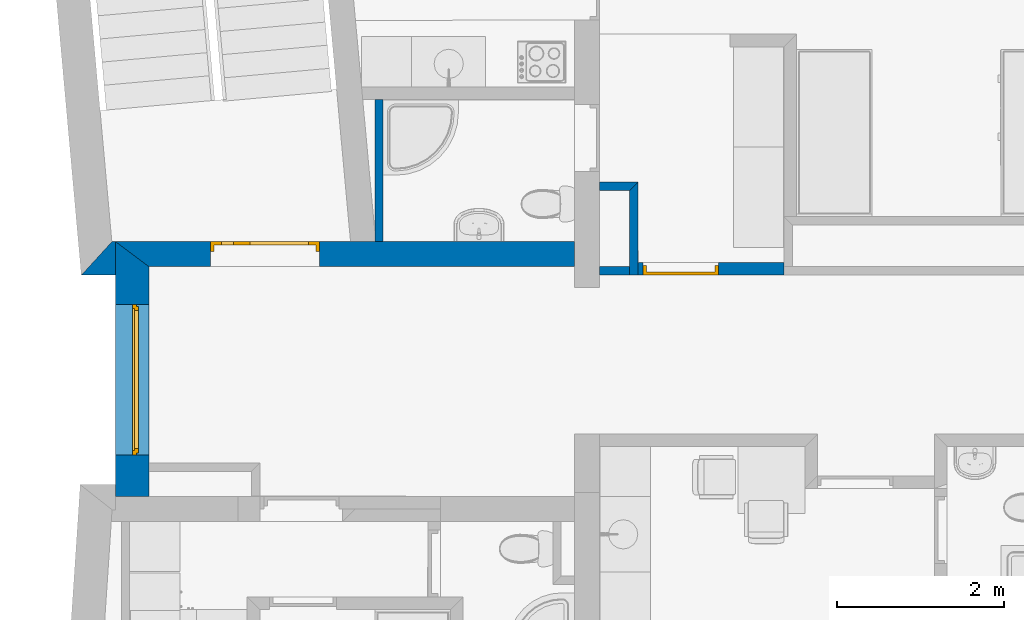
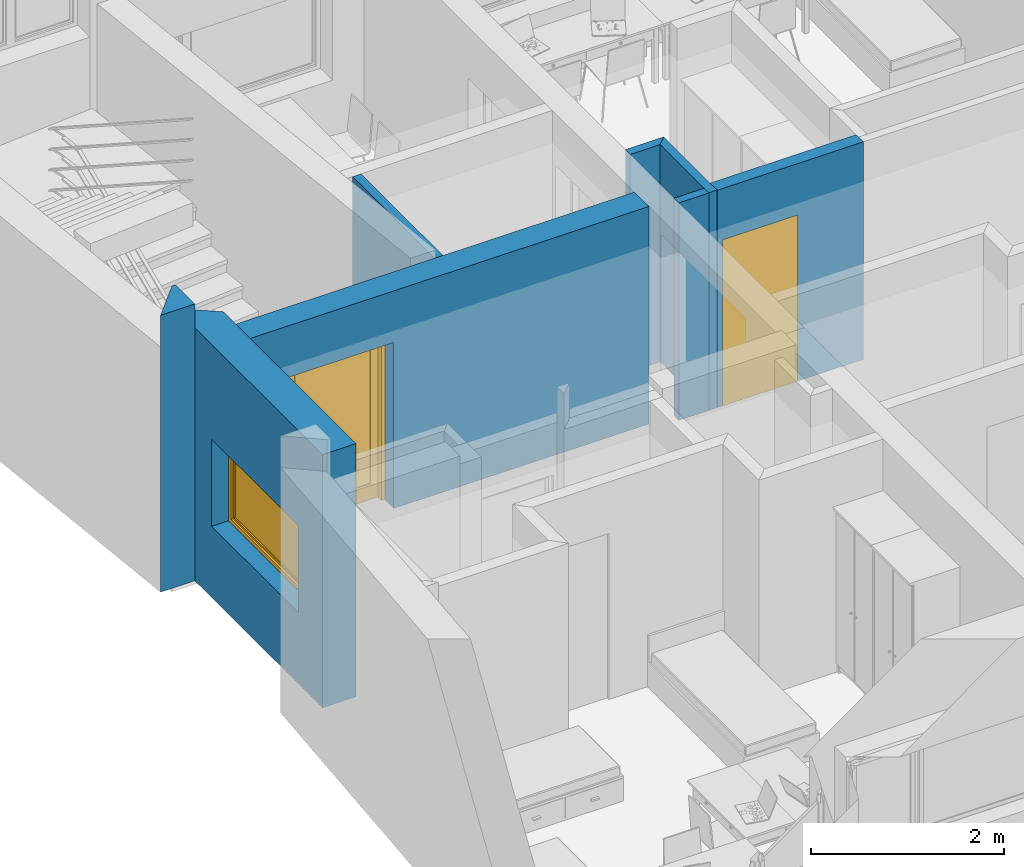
# One storey, part 4 of 172: 8 walls, 2 doors, 1 window, 3 openings.
"""IFC2X3 building model written with IfcOpenShell, lengths in millimetres."""

from ifc_helpers import new_model, entity, si_unit, converted_unit, money_unit, direction, frame, origin_with_axes, place, context, subcontext, project, spatial, polyline, outline, extrude, open_shell, faceted_brep, surface_model, source, transform, mapped, material, material_list, layer, layer_set, layer_usage, type_object, element, fill, save


model = new_model("IFC2X3")

# Units and contexts
model_context = context("Model", 3, precision=1e-05, world=origin_with_axes(), true_north=direction((0.0, 1.0)))
body_context = subcontext(model_context, "Body", "Model", "MODEL_VIEW")
ifc_project = project(units=[si_unit("LENGTHUNIT", "METRE", prefix="MILLI"), si_unit("AREAUNIT", "SQUARE_METRE"), si_unit("VOLUMEUNIT", "CUBIC_METRE"), converted_unit("PLANEANGLEUNIT", "DEGREE", entity("IfcPlaneAngleMeasure", 0.0174532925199), si_unit("PLANEANGLEUNIT", "RADIAN"), dimensions=[0, 0, 0, 0, 0, 0, 0]), si_unit("SOLIDANGLEUNIT", "STERADIAN"), money_unit("USD"), converted_unit("TIMEUNIT", "Year", entity("IfcTimeMeasure", 31556926.0), si_unit("TIMEUNIT", "SECOND"), dimensions=[0, 0, 0, 0, 0, 0, 0]), si_unit("MASSUNIT", "GRAM"), si_unit("THERMODYNAMICTEMPERATUREUNIT", "DEGREE_CELSIUS"), si_unit("LUMINOUSINTENSITYUNIT", "LUMEN")], contexts=[model_context])

# Site, building, storey
site_placement = place(None, origin_with_axes())
site = spatial("IfcSite", under=ifc_project, at=site_placement, Name="Site", CompositionType="ELEMENT")
building_placement = place(site_placement, origin_with_axes())
building = spatial("IfcBuilding", under=site, at=building_placement, Name="Building", CompositionType="ELEMENT")
storey_placement = place(building_placement, frame((0.0, 0.0, 3200.0), z_axis=(0.0, 0.0, 1.0), x_axis=(1.0, 0.0, 0.0)))
storey = spatial("IfcBuildingStorey", under=building, at=storey_placement, Name="3KORRUS", CompositionType="ELEMENT", Elevation=3200.0)

# Wall
ifc_material_1 = material(Name="Olemasolevad seinad tellis, uus viimistlus")
ifc_layer_1 = layer(ifc_material_1, 400.0, ventilated="UNKNOWN")
ifc_layer_set_1 = layer_set([ifc_layer_1], Name="Olemasolevad seinad tellis, uus viimistlus 400")
ifc_layer_usage_1 = layer_usage(ifc_layer_set_1, "AXIS2", "POSITIVE", 0.0)
wall_type_1 = type_object("IfcWallType", Name="Olemasolevad seinad tellis, uus viimistlus 400", PredefinedType="NOTDEFINED")
wall_1_placement = place(storey_placement, frame((-54187.7234453, -11140.7868098, 0.0), z_axis=(0.0, 0.0, 1.0), x_axis=(1.0, 0.0, 0.0)))
element("IfcWallStandardCase", 1, at=wall_1_placement, inside=storey, type_object=wall_type_1, material=ifc_layer_usage_1, Name="VS1", ObjectType="VS1", context=body_context, shape_type="SweptSolid", body=[
    extrude(outline(polyline([(0.0, 0.0), (409.7852883, 0.0), (409.7852883, 400.0), (365.631323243, 400.0), (0.0, 0.0)])), origin_with_axes(), (0.0, 0.0, 1.0), 3500.0),
])

# Wall, opening, window
ifc_layer_usage_2 = layer_usage(ifc_layer_set_1, "AXIS2", "POSITIVE", -400.0)
wall_2_placement = place(storey_placement, frame((-53377.938157, -11039.6041088, 0.0), z_axis=(0.0, 0.0, 1.0), x_axis=(0.0, -1.0, 0.0)))
wall_2 = element("IfcWallStandardCase", 2, at=wall_2_placement, inside=storey, type_object=wall_type_1, material=ifc_layer_usage_2, Name="VS1", ObjectType="VS1", context=body_context, shape_type="SweptSolid", body=[
    extrude(outline(polyline([(-300.0, -400.0), (2747.7334586, -400.0), (2747.7334586, 0.0), (0.0, 0.0), (-300.0, -400.0)])), origin_with_axes(), (0.0, 0.0, 1.0), 3200.0),
])
opening_1_placement = place(wall_2_placement, frame((1349.63579061, 0.0, 900.0), z_axis=(0.0, 0.0, 1.0), x_axis=(1.0, 0.0, 0.0)))
opening_1 = element("IfcOpeningElement", 3, at=opening_1_placement, cuts=wall_2, Name="A5", context=body_context, shape_type="SweptSolid", body=[
    extrude(outline(polyline([(-900.0, 1100.0), (-900.0, 0.0), (900.0, 0.0), (900.0, 1100.0), (-900.0, 1100.0)])), frame((0.0, -200.0, 0.0), z_axis=(0.0, -1.0, 0.0), x_axis=(1.0, 0.0, 0.0)), (0.0, 0.0, 1.0), 600.0),
    extrude(outline(polyline([(-900.0, 0.0), (-900.0, -1100.0), (900.0, -1100.0), (900.0, 0.0), (-900.0, 0.0)])), frame((0.0, -200.0, 0.0), z_axis=(0.0, 1.0, 0.0), x_axis=(1.0, 0.0, 0.0)), (0.0, 0.0, 1.0), 600.0),
])
ifc_material_2 = material(Name="Background")
ifc_material_list = material_list([ifc_material_2])
window_style = type_object("IfcWindowStyle", Name="Window 19", ConstructionType="NOTDEFINED", OperationType="SINGLE_PANEL", ParameterTakesPrecedence=False, Sizeable=False)
shared_shape_1 = source(origin_with_axes(), body_context, "Body", "SurfaceModel", [
    faceted_brep([(-875.0, -150.0, 1050.0), (-900.0, -150.0, 1050.0), (-900.0, -200.0, 1050.0), (-850.0, -200.0, 1050.0), (-850.0, -175.0, 1050.0), (-875.0, -175.0, 1050.0), (-875.0, -150.0, 50.0), (-900.0, -150.0, 50.0), (-900.0, -200.0, 50.0), (-850.0, -200.0, 50.0), (-850.0, -175.0, 50.0), (-875.0, -175.0, 50.0)], [[[0, 1, 2, 3, 4, 5]], [[6, 7, 1, 0]], [[1, 7, 8, 2]], [[2, 8, 9, 3]], [[4, 3, 9, 10]], [[10, 11, 5, 4]], [[5, 11, 6, 0]], [[11, 10, 9, 8, 7, 6]]]),
    faceted_brep([(850.0, -175.0, 1050.0), (850.0, -200.0, 1050.0), (900.0, -200.0, 1050.0), (900.0, -150.0, 1050.0), (875.0, -150.0, 1050.0), (875.0, -175.0, 1050.0), (850.0, -175.0, 50.0), (850.0, -200.0, 50.0), (900.0, -200.0, 50.0), (900.0, -150.0, 50.0), (875.0, -150.0, 50.0), (875.0, -175.0, 50.0)], [[[0, 1, 2, 3, 4, 5]], [[6, 7, 1, 0]], [[8, 2, 1, 7]], [[9, 3, 2, 8]], [[4, 3, 9, 10]], [[10, 11, 5, 4]], [[5, 11, 6, 0]], [[11, 10, 9, 8, 7, 6]]]),
    faceted_brep([(850.0, -175.0, 50.0), (850.0, -200.0, 50.0), (900.0, -200.0, 50.0), (900.0, -150.0, 50.0), (875.0, -150.0, 50.0), (875.0, -175.0, 50.0), (-850.0, -175.0, 50.0), (-850.0, -200.0, 50.0), (-900.0, -200.0, 50.0), (-900.0, -200.0, 0.0), (900.0, -200.0, 0.0), (900.0, -150.0, 0.0), (-875.0, -150.0, 25.0), (875.0, -150.0, 25.0), (-900.0, -150.0, 0.0), (-900.0, -150.0, 50.0), (-875.0, -150.0, 50.0), (875.0, -175.0, 25.0), (-875.0, -175.0, 25.0), (-875.0, -175.0, 50.0)], [[[0, 1, 2, 3, 4, 5]], [[6, 7, 1, 0]], [[8, 9, 10, 2, 1, 7]], [[11, 3, 2, 10]], [[12, 13, 4, 3, 11, 14, 15, 16]], [[13, 17, 5, 4]], [[5, 17, 18, 19, 6, 0]], [[19, 16, 15, 8, 7, 6]], [[15, 14, 9, 8]], [[14, 11, 10, 9]], [[12, 18, 17, 13]], [[19, 18, 12, 16]]]),
    faceted_brep([(-875.0, -150.0, 1050.0), (-900.0, -150.0, 1050.0), (-900.0, -150.0, 1100.0), (900.0, -150.0, 1100.0), (900.0, -150.0, 1050.0), (875.0, -150.0, 1050.0), (875.0, -150.0, 1075.0), (-875.0, -150.0, 1075.0), (-875.0, -175.0, 1050.0), (-850.0, -175.0, 1050.0), (-850.0, -200.0, 1050.0), (-900.0, -200.0, 1050.0), (-900.0, -200.0, 1100.0), (900.0, -200.0, 1100.0), (900.0, -200.0, 1050.0), (875.0, -175.0, 1050.0), (850.0, -200.0, 1050.0), (850.0, -175.0, 1050.0), (875.0, -175.0, 1075.0), (-875.0, -175.0, 1075.0)], [[[0, 1, 2, 3, 4, 5, 6, 7]], [[8, 9, 10, 11, 1, 0]], [[2, 1, 11, 12]], [[3, 2, 12, 13]], [[4, 3, 13, 14]], [[15, 5, 4, 14, 16, 17]], [[5, 15, 18, 6]], [[6, 18, 19, 7]], [[7, 19, 8, 0]], [[17, 9, 8, 19, 18, 15]], [[17, 16, 10, 9]], [[14, 13, 12, 11, 10, 16]]]),
    faceted_brep([(-825.0, -175.0, 1025.0), (-825.0, -125.0, 1025.0), (-875.0, -125.0, 1025.0), (-875.0, -175.0, 1025.0), (-825.0, -175.0, 75.0), (-825.0, -125.0, 75.0), (-875.0, -125.0, 75.0), (-875.0, -175.0, 75.0)], [[[0, 1, 2, 3]], [[4, 5, 1, 0]], [[1, 5, 6, 2]], [[3, 2, 6, 7]], [[0, 3, 7, 4]], [[7, 6, 5, 4]]]),
    faceted_brep([(825.0, -175.0, 75.0), (825.0, -125.0, 75.0), (875.0, -125.0, 75.0), (875.0, -175.0, 75.0), (825.0, -175.0, 1025.0), (825.0, -125.0, 1025.0), (875.0, -125.0, 1025.0), (875.0, -175.0, 1025.0)], [[[0, 1, 2, 3]], [[4, 5, 1, 0]], [[1, 5, 6, 2]], [[3, 2, 6, 7]], [[0, 3, 7, 4]], [[7, 6, 5, 4]]]),
    faceted_brep([(875.0, -175.0, 25.0), (875.0, -125.0, 25.0), (875.0, -125.0, 75.0), (875.0, -175.0, 75.0), (-875.0, -175.0, 25.0), (-875.0, -125.0, 25.0), (-875.0, -125.0, 75.0), (-825.0, -125.0, 75.0), (825.0, -125.0, 75.0), (825.0, -175.0, 75.0), (-825.0, -175.0, 75.0), (-875.0, -175.0, 75.0)], [[[0, 1, 2, 3]], [[4, 5, 1, 0]], [[1, 5, 6, 7, 8, 2]], [[3, 2, 8, 9]], [[0, 3, 9, 10, 11, 4]], [[11, 6, 5, 4]], [[10, 7, 6, 11]], [[9, 8, 7, 10]]]),
    faceted_brep([(-875.0, -175.0, 1075.0), (-875.0, -125.0, 1075.0), (-875.0, -125.0, 1025.0), (-875.0, -175.0, 1025.0), (875.0, -175.0, 1075.0), (875.0, -125.0, 1075.0), (875.0, -125.0, 1025.0), (825.0, -125.0, 1025.0), (-825.0, -125.0, 1025.0), (-825.0, -175.0, 1025.0), (825.0, -175.0, 1025.0), (875.0, -175.0, 1025.0)], [[[0, 1, 2, 3]], [[4, 5, 1, 0]], [[1, 5, 6, 7, 8, 2]], [[3, 2, 8, 9]], [[0, 3, 9, 10, 11, 4]], [[11, 6, 5, 4]], [[10, 7, 6, 11]], [[9, 8, 7, 10]]]),
    surface_model("IfcShellBasedSurfaceModel", [(-825.0, -160.0, 75.0), (825.0, -160.0, 75.0), (825.0, -160.0, 1025.0), (-825.0, -160.0, 1025.0)], [open_shell([[[0, 1, 2, 3]]])]),
    surface_model("IfcShellBasedSurfaceModel", [(-825.0, -140.0, 75.0), (-825.0, -140.0, 1025.0), (825.0, -140.0, 1025.0), (825.0, -140.0, 75.0)], [open_shell([[[0, 1, 2, 3]]])]),
])
window_placement = place(opening_1_placement, frame((-900.0, 0.0, 0.0), z_axis=(0.0, 0.0, 1.0), x_axis=(1.0, 0.0, 0.0)))
window = element("IfcWindow", 4, at=window_placement, inside=storey, type_object=window_style, material=ifc_material_list, Name="A5", ObjectType="A5", OverallHeight=1100.0, OverallWidth=1800.0, context=body_context, shape_type="MappedRepresentation", body=[
    mapped(shared_shape_1, transform((900.0, 0.0, 0.0))),
])
fill(opening_1, window)

# Wall, opening, door
ifc_material_3 = material(Name="UmbKipsplaat")
ifc_layer_2 = layer(ifc_material_3, 13.0, ventilated="UNKNOWN")
ifc_layer_3 = layer(ifc_material_3, 13.0, ventilated="UNKNOWN")
ifc_material_4 = material(Name="SOOJUSTUS MINERAALVILL")
ifc_layer_4 = layer(ifc_material_4, 98.0, ventilated="UNKNOWN")
ifc_layer_5 = layer(ifc_material_3, 13.0, ventilated="UNKNOWN")
ifc_layer_6 = layer(ifc_material_3, 13.0, ventilated="UNKNOWN")
ifc_layer_set_2 = layer_set([ifc_layer_2, ifc_layer_3, ifc_layer_4, ifc_layer_5, ifc_layer_6], Name="kipssein150")
ifc_layer_usage_3 = layer_usage(ifc_layer_set_2, "AXIS2", "POSITIVE", 0.0)
wall_type_2 = type_object("IfcWallType", Name="kipssein150 150", PredefinedType="NOTDEFINED")
wall_3_placement = place(storey_placement, frame((-47531.5705949, -11139.7615539, 0.0), z_axis=(0.0, 0.0, 1.0), x_axis=(1.0, 0.0, 0.0)))
wall_3 = element("IfcWallStandardCase", 5, at=wall_3_placement, inside=storey, type_object=wall_type_2, material=ifc_layer_usage_3, Name="SS1", ObjectType="SS1", context=body_context, shape_type="SweptSolid", body=[
    extrude(outline(polyline([(0.0, 0.0), (1747.43782012, 0.0), (1747.43782012, 150.0), (0.0, 150.0), (0.0, 0.0)])), origin_with_axes(), (0.0, 0.0, 1.0), 2750.0),
])
opening_2_placement = place(wall_3_placement, frame((510.025231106, 0.0, 0.0), z_axis=(0.0, 0.0, 1.0), x_axis=(1.0, 0.0, 0.0)))
opening_2 = element("IfcOpeningElement", 6, at=opening_2_placement, cuts=wall_3, Name="SU2-6", context=body_context, shape_type="SweptSolid", body=[
    extrude(outline(polyline([(-450.0, -2100.0), (450.0, -2100.0), (450.0, 0.0), (-450.0, 0.0), (-450.0, -2100.0)])), frame((0.0, 150.0, 0.0), z_axis=(0.0, 1.0, 0.0), x_axis=(1.0, 0.0, 0.0)), (0.0, 0.0, -1.0), 450.0),
])
door_style_1 = type_object("IfcDoorStyle", Name="Door 19", ConstructionType="NOTDEFINED", OperationType="SINGLE_SWING_LEFT", ParameterTakesPrecedence=False, Sizeable=False)
shared_shape_2 = source(origin_with_axes(), body_context, "Body", "Brep", [
    faceted_brep([(410.0, -40.0, 0.0), (410.0, -115.0, 0.0), (410.0, -115.0, 2060.0), (410.0, -40.0, 2060.0), (422.0, -40.0, 0.0), (422.0, 0.0, 0.0), (450.0, 0.0, 0.0), (450.0, -115.0, 0.0), (450.0, -115.0, 2060.0), (422.0, -40.0, 2060.0), (450.0, 0.0, 2060.0), (422.0, 0.0, 2060.0)], [[[0, 1, 2, 3]], [[4, 5, 6, 7, 1, 0]], [[2, 1, 7, 8]], [[9, 3, 2, 8, 10, 11]], [[9, 4, 0, 3]], [[11, 5, 4, 9]], [[11, 10, 6, 5]], [[7, 6, 10, 8]]]),
    faceted_brep([(-422.0, -40.0, 2060.0), (-422.0, 0.0, 2060.0), (-450.0, 0.0, 2060.0), (-450.0, -115.0, 2060.0), (-410.0, -115.0, 2060.0), (-410.0, -40.0, 2060.0), (-422.0, -40.0, 0.0), (-422.0, 0.0, 0.0), (-450.0, 0.0, 0.0), (-450.0, -115.0, 0.0), (-410.0, -115.0, 0.0), (-410.0, -40.0, 0.0)], [[[0, 1, 2, 3, 4, 5]], [[0, 6, 7, 1]], [[7, 8, 2, 1]], [[3, 2, 8, 9]], [[4, 3, 9, 10]], [[5, 4, 10, 11]], [[5, 11, 6, 0]], [[6, 11, 10, 9, 8, 7]]]),
    faceted_brep([(422.0, 0.0, 2072.0), (-422.0, 0.0, 2072.0), (-422.0, 0.0, 2060.0), (-450.0, 0.0, 2060.0), (-450.0, 0.0, 2100.0), (450.0, 0.0, 2100.0), (450.0, 0.0, 2060.0), (422.0, 0.0, 2060.0), (422.0, -40.0, 2072.0), (-422.0, -40.0, 2072.0), (-422.0, -40.0, 2060.0), (-410.0, -40.0, 2060.0), (-410.0, -115.0, 2060.0), (-450.0, -115.0, 2060.0), (-450.0, -115.0, 2100.0), (450.0, -115.0, 2100.0), (450.0, -115.0, 2060.0), (422.0, -40.0, 2060.0), (410.0, -115.0, 2060.0), (410.0, -40.0, 2060.0)], [[[0, 1, 2, 3, 4, 5, 6, 7]], [[0, 8, 9, 1]], [[1, 9, 10, 2]], [[10, 11, 12, 13, 3, 2]], [[14, 4, 3, 13]], [[15, 5, 4, 14]], [[16, 6, 5, 15]], [[17, 7, 6, 16, 18, 19]], [[7, 17, 8, 0]], [[10, 9, 8, 17, 19, 11]], [[19, 18, 12, 11]], [[13, 12, 18, 16, 15, 14]]]),
    faceted_brep([(-422.0, 0.0, 0.0), (422.0, 0.0, 0.0), (422.0, -40.0, 0.0), (-422.0, -40.0, 0.0), (-422.0, 0.0, 2072.0), (422.0, 0.0, 2072.0), (422.0, -40.0, 2072.0), (-422.0, -40.0, 2072.0)], [[[0, 1, 2, 3]], [[0, 4, 5, 1]], [[1, 5, 6, 2]], [[3, 2, 6, 7]], [[4, 0, 3, 7]], [[5, 4, 7, 6]]]),
])
door_1_placement = place(opening_2_placement, frame((450.0, 0.0, 0.0), z_axis=(0.0, 0.0, 1.0), x_axis=(-1.0, 0.0, 0.0)))
door_1 = element("IfcDoor", 7, at=door_1_placement, inside=storey, type_object=door_style_1, material=ifc_material_list, Name="SU2-6", ObjectType="Korteri välisuks", OverallHeight=2100.0, OverallWidth=900.0, context=body_context, shape_type="MappedRepresentation", body=[
    mapped(shared_shape_2, transform((450.0, 0.0, 0.0))),
])
fill(opening_2, door_1)

ifc_material_5 = material(Name="Olemasolevad seinad tellis, uus viimistlus")
ifc_layer_7 = layer(ifc_material_5, 300.0, ventilated="UNKNOWN")
ifc_layer_set_3 = layer_set([ifc_layer_7], Name="Olemasolevad seinad tellis, uus viimistlus  300")
ifc_layer_usage_4 = layer_usage(ifc_layer_set_3, "AXIS2", "POSITIVE", 0.0)
wall_type_3 = type_object("IfcWallType", Name="Olemasolevad seinad tellis, uus viimistlus  300", PredefinedType="NOTDEFINED")
wall_4_placement = place(storey_placement, frame((-53377.938157, -11039.6041088, 0.0), z_axis=(0.0, 0.0, 1.0), x_axis=(1.0, 0.0, 0.0)))
wall_4 = element("IfcWallStandardCase", 8, at=wall_4_placement, inside=storey, type_object=wall_type_3, material=ifc_layer_usage_4, Name="KS1", ObjectType="KS1", context=body_context, shape_type="SweptSolid", body=[
    extrude(outline(polyline([(0.0, 0.0), (5087.6414537, 0.0), (5087.6414537, 300.0), (-400.0, 300.0), (0.0, 0.0)])), origin_with_axes(), (0.0, 0.0, 1.0), 2750.0),
])
opening_3_placement = place(wall_4_placement, frame((1386.20809059, 0.0, 0.0), z_axis=(0.0, 0.0, 1.0), x_axis=(1.0, 0.0, 0.0)))
opening_3 = element("IfcOpeningElement", 9, at=opening_3_placement, cuts=wall_4, Name="SU4-2", context=body_context, shape_type="SweptSolid", body=[
    extrude(outline(polyline([(-650.0, -2100.0), (650.0, -2100.0), (650.0, 0.0), (-650.0, 0.0), (-650.0, -2100.0)])), frame((0.0, -300.0, 0.0), z_axis=(0.0, 1.0, 0.0), x_axis=(1.0, 0.0, 0.0)), (0.0, 0.0, 1.0), 900.0),
])
door_style_2 = type_object("IfcDoorStyle", Name="Double Door Asymmetric 19", ConstructionType="NOTDEFINED", OperationType="DOUBLE_DOOR_SINGLE_SWING", ParameterTakesPrecedence=False, Sizeable=False)
shared_shape_3 = source(origin_with_axes(), body_context, "Body", "SurfaceModel", [
    faceted_brep([(-610.0, -40.0, 0.0), (-610.0, -40.0, 2060.0), (-610.0, -115.0, 2060.0), (-610.0, -115.0, 0.0), (-622.0, -40.0, 2060.0), (-622.0, -40.0, 0.0), (-622.0, 0.0, 2060.0), (-650.0, 0.0, 2060.0), (-650.0, -115.0, 2060.0), (-650.0, -115.0, 0.0), (-650.0, 0.0, 0.0), (-622.0, 0.0, 0.0)], [[[0, 1, 2, 3]], [[4, 1, 0, 5]], [[4, 6, 7, 8, 2, 1]], [[2, 8, 9, 3]], [[5, 0, 3, 9, 10, 11]], [[6, 4, 5, 11]], [[6, 11, 10, 7]], [[9, 8, 7, 10]]]),
    faceted_brep([(622.0, -40.0, 2060.0), (610.0, -40.0, 2060.0), (610.0, -115.0, 2060.0), (650.0, -115.0, 2060.0), (650.0, 0.0, 2060.0), (622.0, 0.0, 2060.0), (622.0, -40.0, 0.0), (610.0, -40.0, 0.0), (610.0, -115.0, 0.0), (650.0, -115.0, 0.0), (650.0, 0.0, 0.0), (622.0, 0.0, 0.0)], [[[0, 1, 2, 3, 4, 5]], [[1, 0, 6, 7]], [[1, 7, 8, 2]], [[2, 8, 9, 3]], [[3, 9, 10, 4]], [[11, 5, 4, 10]], [[0, 5, 11, 6]], [[6, 11, 10, 9, 8, 7]]]),
    faceted_brep([(-622.0, 0.0, 2072.0), (-622.0, 0.0, 2060.0), (-650.0, 0.0, 2060.0), (-650.0, 0.0, 2100.0), (650.0, 0.0, 2100.0), (650.0, 0.0, 2060.0), (622.0, 0.0, 2060.0), (622.0, 0.0, 2072.0), (-622.0, -40.0, 2072.0), (-622.0, -40.0, 2060.0), (-610.0, -40.0, 2060.0), (-610.0, -115.0, 2060.0), (-650.0, -115.0, 2060.0), (-650.0, -115.0, 2100.0), (650.0, -115.0, 2100.0), (650.0, -115.0, 2060.0), (622.0, -40.0, 2060.0), (610.0, -115.0, 2060.0), (610.0, -40.0, 2060.0), (622.0, -40.0, 2072.0)], [[[0, 1, 2, 3, 4, 5, 6, 7]], [[1, 0, 8, 9]], [[9, 10, 11, 12, 2, 1]], [[12, 13, 3, 2]], [[13, 14, 4, 3]], [[14, 15, 5, 4]], [[16, 6, 5, 15, 17, 18]], [[7, 6, 16, 19]], [[0, 7, 19, 8]], [[16, 18, 10, 9, 8, 19]], [[10, 18, 17, 11]], [[15, 14, 13, 12, 11, 17]]]),
    faceted_brep([(622.0, 0.0, 200.0), (622.0, -40.0, 200.0), (522.0, -40.0, 200.0), (522.0, 0.0, 200.0), (622.0, 0.0, 1972.0), (622.0, -40.0, 1972.0), (522.0, -40.0, 1972.0), (522.0, 0.0, 1972.0)], [[[0, 1, 2, 3]], [[4, 5, 1, 0]], [[1, 5, 6, 2]], [[3, 2, 6, 7]], [[0, 3, 7, 4]], [[7, 6, 5, 4]]]),
    faceted_brep([(-278.0, 0.0, 200.0), (-278.0, -40.0, 200.0), (-278.0, -40.0, 1972.0), (-278.0, 0.0, 1972.0), (-178.0, 0.0, 200.0), (-178.0, -40.0, 200.0), (-178.0, -40.0, 1972.0), (-178.0, 0.0, 1972.0)], [[[0, 1, 2, 3]], [[4, 5, 1, 0]], [[1, 5, 6, 2]], [[3, 2, 6, 7]], [[0, 3, 7, 4]], [[7, 6, 5, 4]]]),
    faceted_brep([(622.0, 0.0, 0.0), (622.0, -40.0, 0.0), (-278.0, -40.0, 0.0), (-278.0, 0.0, 0.0), (622.0, 0.0, 200.0), (622.0, -40.0, 200.0), (522.0, -40.0, 200.0), (-178.0, -40.0, 200.0), (-278.0, -40.0, 200.0), (-278.0, 0.0, 200.0), (-178.0, 0.0, 200.0), (522.0, 0.0, 200.0)], [[[0, 1, 2, 3]], [[4, 5, 1, 0]], [[1, 5, 6, 7, 8, 2]], [[3, 2, 8, 9]], [[0, 3, 9, 10, 11, 4]], [[11, 6, 5, 4]], [[10, 7, 6, 11]], [[9, 8, 7, 10]]]),
    faceted_brep([(622.0, 0.0, 2072.0), (622.0, -40.0, 2072.0), (622.0, -40.0, 1972.0), (622.0, 0.0, 1972.0), (-278.0, 0.0, 2072.0), (-278.0, -40.0, 2072.0), (-278.0, -40.0, 1972.0), (-178.0, -40.0, 1972.0), (522.0, -40.0, 1972.0), (522.0, 0.0, 1972.0), (-178.0, 0.0, 1972.0), (-278.0, 0.0, 1972.0)], [[[0, 1, 2, 3]], [[4, 5, 1, 0]], [[1, 5, 6, 7, 8, 2]], [[3, 2, 8, 9]], [[0, 3, 9, 10, 11, 4]], [[11, 6, 5, 4]], [[10, 7, 6, 11]], [[9, 8, 7, 10]]]),
    surface_model("IfcShellBasedSurfaceModel", [(522.0, -14.0, 200.0), (-178.0, -14.0, 200.0), (-178.0, -14.0, 1972.0), (522.0, -14.0, 1972.0)], [open_shell([[[0, 1, 2, 3]]])]),
    surface_model("IfcShellBasedSurfaceModel", [(522.0, -26.0, 200.0), (522.0, -26.0, 1972.0), (-178.0, -26.0, 1972.0), (-178.0, -26.0, 200.0)], [open_shell([[[0, 1, 2, 3]]])]),
    faceted_brep([(-622.0, 0.0, 200.0), (-522.0, 0.0, 200.0), (-522.0, -40.0, 200.0), (-622.0, -40.0, 200.0), (-622.0, 0.0, 1972.0), (-522.0, 0.0, 1972.0), (-522.0, -40.0, 1972.0), (-622.0, -40.0, 1972.0)], [[[0, 1, 2, 3]], [[0, 4, 5, 1]], [[1, 5, 6, 2]], [[3, 2, 6, 7]], [[4, 0, 3, 7]], [[5, 4, 7, 6]]]),
    faceted_brep([(-278.0, 0.0, 200.0), (-278.0, 0.0, 1972.0), (-278.0, -40.0, 1972.0), (-278.0, -40.0, 200.0), (-378.0, 0.0, 200.0), (-378.0, 0.0, 1972.0), (-378.0, -40.0, 1972.0), (-378.0, -40.0, 200.0)], [[[0, 1, 2, 3]], [[0, 4, 5, 1]], [[1, 5, 6, 2]], [[3, 2, 6, 7]], [[4, 0, 3, 7]], [[5, 4, 7, 6]]]),
    faceted_brep([(-622.0, 0.0, 0.0), (-278.0, 0.0, 0.0), (-278.0, -40.0, 0.0), (-622.0, -40.0, 0.0), (-622.0, 0.0, 200.0), (-522.0, 0.0, 200.0), (-378.0, 0.0, 200.0), (-278.0, 0.0, 200.0), (-278.0, -40.0, 200.0), (-378.0, -40.0, 200.0), (-522.0, -40.0, 200.0), (-622.0, -40.0, 200.0)], [[[0, 1, 2, 3]], [[0, 4, 5, 6, 7, 1]], [[1, 7, 8, 2]], [[3, 2, 8, 9, 10, 11]], [[4, 0, 3, 11]], [[5, 4, 11, 10]], [[6, 5, 10, 9]], [[7, 6, 9, 8]]]),
    faceted_brep([(-622.0, 0.0, 2072.0), (-622.0, 0.0, 1972.0), (-622.0, -40.0, 1972.0), (-622.0, -40.0, 2072.0), (-278.0, 0.0, 2072.0), (-278.0, 0.0, 1972.0), (-378.0, 0.0, 1972.0), (-522.0, 0.0, 1972.0), (-522.0, -40.0, 1972.0), (-378.0, -40.0, 1972.0), (-278.0, -40.0, 1972.0), (-278.0, -40.0, 2072.0)], [[[0, 1, 2, 3]], [[0, 4, 5, 6, 7, 1]], [[1, 7, 8, 2]], [[3, 2, 8, 9, 10, 11]], [[4, 0, 3, 11]], [[5, 4, 11, 10]], [[6, 5, 10, 9]], [[7, 6, 9, 8]]]),
    surface_model("IfcShellBasedSurfaceModel", [(-522.0, -14.0, 200.0), (-522.0, -14.0, 1972.0), (-378.0, -14.0, 1972.0), (-378.0, -14.0, 200.0)], [open_shell([[[0, 1, 2, 3]]])]),
    surface_model("IfcShellBasedSurfaceModel", [(-522.0, -26.0, 200.0), (-378.0, -26.0, 200.0), (-378.0, -26.0, 1972.0), (-522.0, -26.0, 1972.0)], [open_shell([[[0, 1, 2, 3]]])]),
])
door_2_placement = place(opening_3_placement, frame((-650.0, 0.0, 0.0), z_axis=(0.0, 0.0, 1.0), x_axis=(1.0, 0.0, 0.0)))
door_2 = element("IfcDoor", 10, at=door_2_placement, inside=storey, type_object=door_style_2, material=ifc_material_list, Name="SU4-2", ObjectType="Trepkoja uks", OverallHeight=2100.0, OverallWidth=1300.0, context=body_context, shape_type="MappedRepresentation", body=[
    mapped(shared_shape_3, transform((650.0, 300.0, 0.0))),
])
fill(opening_3, door_2)

# Walls
ifc_material_6 = material(Name="krohv")
ifc_layer_8 = layer(ifc_material_6, 2.0, ventilated="UNKNOWN")
ifc_layer_9 = layer(ifc_material_6, 10.0, ventilated="UNKNOWN")
ifc_material_7 = material(Name="Kergplokk")
ifc_layer_10 = layer(ifc_material_7, 76.0, ventilated="UNKNOWN")
ifc_layer_11 = layer(ifc_material_6, 10.0, ventilated="UNKNOWN")
ifc_layer_12 = layer(ifc_material_6, 2.0, ventilated="UNKNOWN")
ifc_layer_set_4 = layer_set([ifc_layer_8, ifc_layer_9, ifc_layer_10, ifc_layer_11, ifc_layer_12], Name="Kergplokk Bauroc 100")
ifc_layer_usage_5 = layer_usage(ifc_layer_set_4, "AXIS2", "POSITIVE", 0.0)
wall_type_4 = type_object("IfcWallType", Name="Kergplokk Bauroc 100 100", PredefinedType="NOTDEFINED")
wall_5_placement = place(storey_placement, frame((-47531.576757, -11136.6041088, 0.0), z_axis=(0.0, 0.0, 1.0), x_axis=(0.0, 1.0, 0.0)))
element("IfcWallStandardCase", 11, at=wall_5_placement, inside=storey, type_object=wall_type_4, material=ifc_layer_usage_5, Name="SS2", ObjectType="SS2", context=body_context, shape_type="SweptSolid", body=[
    extrude(outline(polyline([(0.0, 0.0), (1107.3072669, 0.0), (1007.3072669, 100.0), (0.0, 100.0), (0.0, 0.0)])), origin_with_axes(), (0.0, 0.0, 1.0), 2750.0),
])
ifc_layer_usage_6 = layer_usage(ifc_layer_set_4, "AXIS2", "POSITIVE", 0.0)
wall_6_placement = place(storey_placement, frame((-47531.576757, -10029.2968419, 0.0), z_axis=(0.0, 0.0, 1.0), x_axis=(-1.0, 0.0, 0.0)))
element("IfcWallStandardCase", 12, at=wall_6_placement, inside=storey, type_object=wall_type_4, material=ifc_layer_usage_6, Name="SS2", ObjectType="SS2", context=body_context, shape_type="SweptSolid", body=[
    extrude(outline(polyline([(0.0, 0.0), (458.7199463, 0.0), (458.7199463, 100.0), (100.0, 100.0), (0.0, 0.0)])), origin_with_axes(), (0.0, 0.0, 1.0), 2750.0),
])
ifc_layer_usage_7 = layer_usage(ifc_layer_set_4, "AXIS2", "POSITIVE", 0.0)
wall_7_placement = place(storey_placement, frame((-47531.576757, -11039.6041088, 0.0), z_axis=(0.0, 0.0, 1.0), x_axis=(-1.0, 0.0, 0.0)))
element("IfcWallStandardCase", 13, at=wall_7_placement, inside=storey, type_object=wall_type_4, material=ifc_layer_usage_7, Name="SS2", ObjectType="SS2", context=body_context, shape_type="SweptSolid", body=[
    extrude(outline(polyline([(100.0, 0.0), (458.7199463, 0.0), (458.7199463, 100.0), (100.0, 100.0), (100.0, 0.0)])), origin_with_axes(), (0.0, 0.0, 1.0), 2750.0),
])
ifc_layer_usage_8 = layer_usage(ifc_layer_set_4, "AXIS2", "POSITIVE", -100.0)
wall_8_placement = place(storey_placement, frame((-50578.5849733, -9039.27319796, 0.0), z_axis=(0.0, 0.0, 1.0), x_axis=(0.0, -1.0, 0.0)))
element("IfcWallStandardCase", 14, at=wall_8_placement, inside=storey, type_object=wall_type_4, material=ifc_layer_usage_8, Name="SS1", ObjectType="SS2", context=body_context, shape_type="SweptSolid", body=[
    extrude(outline(polyline([(0.0, -100.0), (1700.33091084, -100.0), (1700.33091084, 0.0), (0.0, 0.0), (0.0, -100.0)])), origin_with_axes(), (0.0, 0.0, 1.0), 2750.0),
])

save(model, "model.ifc")
